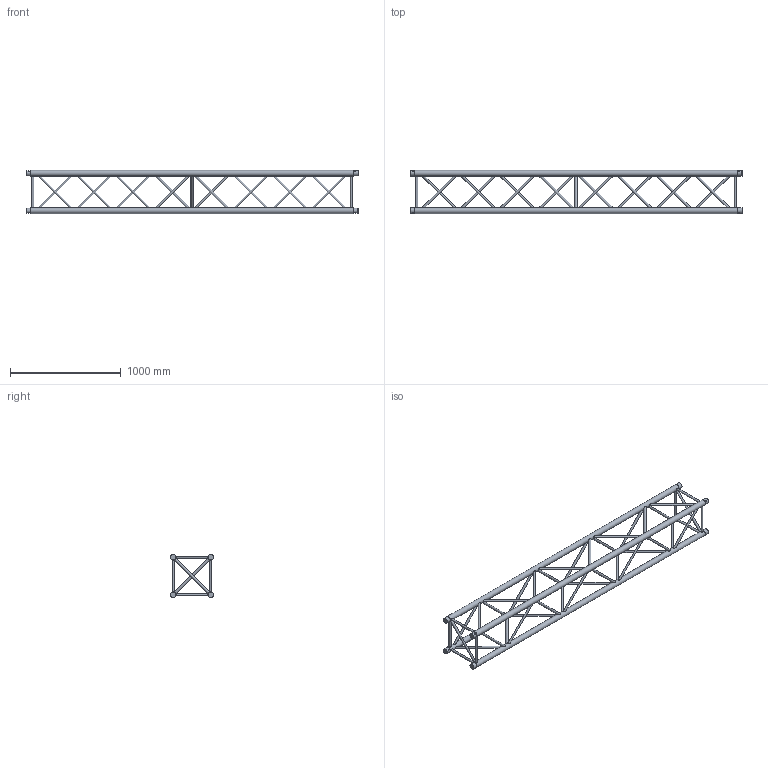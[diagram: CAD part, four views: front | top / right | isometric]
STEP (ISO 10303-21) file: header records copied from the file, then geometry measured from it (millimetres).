
FILE_DESCRIPTION(/* description */ (''),/* implementation_level */ '2;1');
FILE_NAME(/* name */ 'M:\Symbolen\STP\40-er truss\111080199.stp',/* time_stamp */ '2015-02-26T16:41:52+01:00',/* author */ ('Stephan'),/* organization */ (''),/* preprocessor_version */ 'ST-DEVELOPER v15.6',/* originating_system */ 'Autodesk Inventor 2015',/* authorisation */ '');
FILE_SCHEMA (('AUTOMOTIVE_DESIGN { 1 0 10303 214 3 1 1 }'));
Length unit declared in the file: millimetre
Products named in the file (1): 160023960
Bounding box: 3000 x 389.98 x 389.98 mm (x, y, z)
Volume: 29667044.6 mm3; surface area: 3031105.4 mm2
Topology: 47 solids, 47 shells, 317 faces, 585 edges, 362 vertices
Faces by surface type: plane 182, cylinder 127, cone 8
Full cylindrical faces by diameter (mm): 10 x8, 20 x43, 49.5 x8, 51 x4
Entity records: 8372 total; most frequent: CARTESIAN_POINT 2314, DIRECTION 1048, ORIENTED_EDGE 1036, EDGE_CURVE 502, AXIS2_PLACEMENT_3D 452, EDGE_LOOP 428, VERTEX_POINT 358, STYLED_ITEM 257
